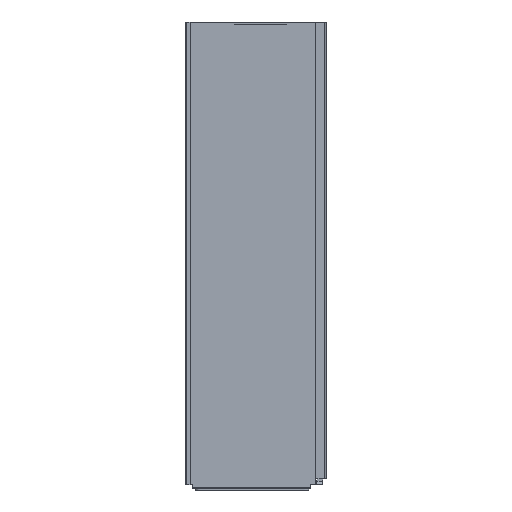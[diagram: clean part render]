
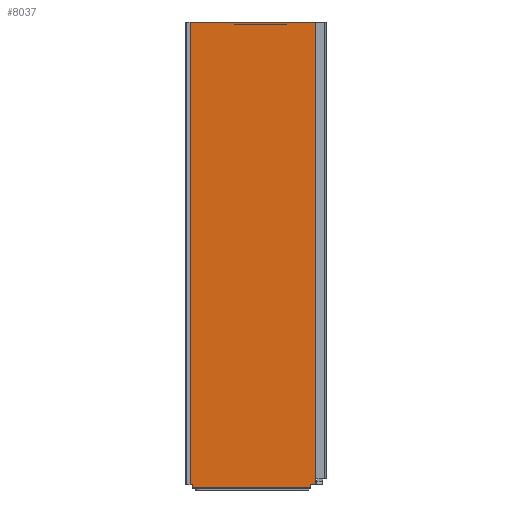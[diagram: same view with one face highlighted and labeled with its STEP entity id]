
A CAD part, left-side view. The second image highlights one B-rep face of the part: STEP entity #8037.
In plain terms, the highlighted planar face has unit normal (-1, 0, 0).
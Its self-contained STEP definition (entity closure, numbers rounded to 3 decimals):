
#11 = VECTOR ( 'NONE', #3467, 1000. ) ;
#17 = ORIENTED_EDGE ( 'NONE', *, *, #9846, .T. ) ;
#94 = ORIENTED_EDGE ( 'NONE', *, *, #7277, .F. ) ;
#97 = EDGE_LOOP ( 'NONE', ( #9263, #10284, #1888, #8140, #17, #4933, #94, #2979 ) ) ;
#312 = LINE ( 'NONE', #6796, #5129 ) ;
#361 = LINE ( 'NONE', #2497, #413 ) ;
#413 = VECTOR ( 'NONE', #1700, 1000. ) ;
#723 = VERTEX_POINT ( 'NONE', #6768 ) ;
#1123 = DIRECTION ( 'NONE',  ( 0., -1., 0. ) ) ;
#1370 = EDGE_CURVE ( 'NONE', #5033, #723, #7340, .T. ) ;
#1428 = CARTESIAN_POINT ( 'NONE',  ( -0.8, 3.5, -388. ) ) ;
#1509 = EDGE_CURVE ( 'NONE', #10231, #8483, #5750, .T. ) ;
#1647 = CARTESIAN_POINT ( 'NONE',  ( -0.8, 107.7, -388. ) ) ;
#1700 = DIRECTION ( 'NONE',  ( 0., 1., 0. ) ) ;
#1879 = CARTESIAN_POINT ( 'NONE',  ( -0.8, 107.7, -388. ) ) ;
#1888 = ORIENTED_EDGE ( 'NONE', *, *, #3779, .T. ) ;
#2061 = LINE ( 'NONE', #5299, #11 ) ;
#2104 = LINE ( 'NONE', #7826, #6693 ) ;
#2377 = CARTESIAN_POINT ( 'NONE',  ( -0.8, 3.5, -390.8 ) ) ;
#2409 = EDGE_CURVE ( 'NONE', #2655, #3260, #361, .T. ) ;
#2497 = CARTESIAN_POINT ( 'NONE',  ( -0.8, 3.5, -390.8 ) ) ;
#2655 = VERTEX_POINT ( 'NONE', #2377 ) ;
#2979 = ORIENTED_EDGE ( 'NONE', *, *, #7341, .T. ) ;
#3091 = EDGE_CURVE ( 'NONE', #3260, #4506, #2061, .T. ) ;
#3260 = VERTEX_POINT ( 'NONE', #4500 ) ;
#3273 = AXIS2_PLACEMENT_3D ( 'NONE', #8610, #6761, #1123 ) ;
#3425 = VECTOR ( 'NONE', #10034, 1000. ) ;
#3445 = LINE ( 'NONE', #6782, #3425 ) ;
#3467 = DIRECTION ( 'NONE',  ( 0., 0., 1. ) ) ;
#3618 = VECTOR ( 'NONE', #9789, 1000. ) ;
#3779 = EDGE_CURVE ( 'NONE', #2655, #5033, #3445, .T. ) ;
#4355 = LINE ( 'NONE', #6854, #9896 ) ;
#4473 = VECTOR ( 'NONE', #8844, 1000. ) ;
#4500 = CARTESIAN_POINT ( 'NONE',  ( -0.8, 102.5, -390.8 ) ) ;
#4506 = VERTEX_POINT ( 'NONE', #8256 ) ;
#4898 = VERTEX_POINT ( 'NONE', #1879 ) ;
#4933 = ORIENTED_EDGE ( 'NONE', *, *, #1509, .F. ) ;
#5033 = VERTEX_POINT ( 'NONE', #1428 ) ;
#5129 = VECTOR ( 'NONE', #10053, 1000. ) ;
#5299 = CARTESIAN_POINT ( 'NONE',  ( -0.8, 102.5, -390. ) ) ;
#5360 = PLANE ( 'NONE',  #3273 ) ;
#5750 = LINE ( 'NONE', #9669, #4473 ) ;
#5816 = CARTESIAN_POINT ( 'NONE',  ( -0.8, -0.8, 0. ) ) ;
#6693 = VECTOR ( 'NONE', #7030, 1000. ) ;
#6761 = DIRECTION ( 'NONE',  ( -1., 0., 0. ) ) ;
#6768 = CARTESIAN_POINT ( 'NONE',  ( -0.8, -0.8, -388. ) ) ;
#6782 = CARTESIAN_POINT ( 'NONE',  ( -0.8, 3.5, -390. ) ) ;
#6796 = CARTESIAN_POINT ( 'NONE',  ( -0.8, 107.7, -388. ) ) ;
#6854 = CARTESIAN_POINT ( 'NONE',  ( -0.8, 107.7, -388. ) ) ;
#7030 = DIRECTION ( 'NONE',  ( 0., 0., 1. ) ) ;
#7277 = EDGE_CURVE ( 'NONE', #4898, #10231, #4355, .T. ) ;
#7340 = LINE ( 'NONE', #1647, #3618 ) ;
#7341 = EDGE_CURVE ( 'NONE', #4898, #4506, #312, .T. ) ;
#7826 = CARTESIAN_POINT ( 'NONE',  ( -0.8, -0.8, -388. ) ) ;
#8037 = ADVANCED_FACE ( 'NONE', ( #10106 ), #5360, .T. ) ;
#8140 = ORIENTED_EDGE ( 'NONE', *, *, #1370, .T. ) ;
#8256 = CARTESIAN_POINT ( 'NONE',  ( -0.8, 102.5, -388. ) ) ;
#8483 = VERTEX_POINT ( 'NONE', #5816 ) ;
#8610 = CARTESIAN_POINT ( 'NONE',  ( -0.8, 107.7, -388. ) ) ;
#8844 = DIRECTION ( 'NONE',  ( 0., -1., 0. ) ) ;
#9263 = ORIENTED_EDGE ( 'NONE', *, *, #3091, .F. ) ;
#9619 = CARTESIAN_POINT ( 'NONE',  ( -0.8, 107.7, 0. ) ) ;
#9669 = CARTESIAN_POINT ( 'NONE',  ( -0.8, 107.7, 0. ) ) ;
#9789 = DIRECTION ( 'NONE',  ( 0., -1., 0. ) ) ;
#9846 = EDGE_CURVE ( 'NONE', #723, #8483, #2104, .T. ) ;
#9896 = VECTOR ( 'NONE', #10097, 1000. ) ;
#10034 = DIRECTION ( 'NONE',  ( 0., 0., 1. ) ) ;
#10053 = DIRECTION ( 'NONE',  ( 0., -1., 0. ) ) ;
#10097 = DIRECTION ( 'NONE',  ( 0., 0., 1. ) ) ;
#10106 = FACE_OUTER_BOUND ( 'NONE', #97, .T. ) ;
#10231 = VERTEX_POINT ( 'NONE', #9619 ) ;
#10284 = ORIENTED_EDGE ( 'NONE', *, *, #2409, .F. ) ;
